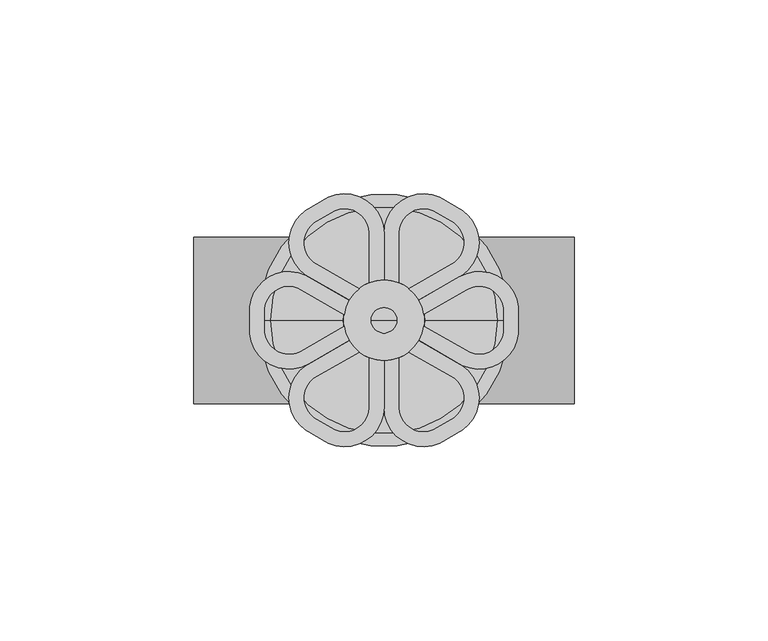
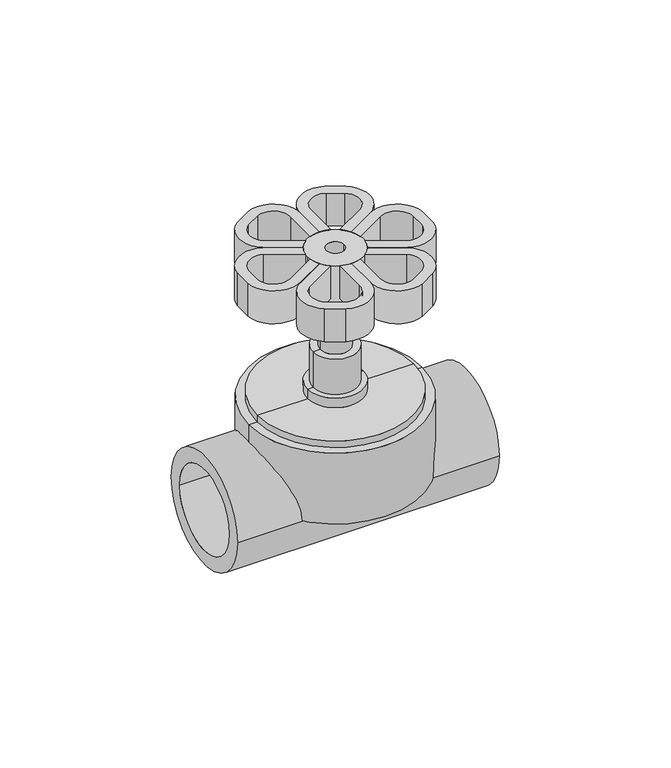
"""IFC4 building model written with IfcOpenShell, lengths in millimetres: valve geometry, Aquatherm - Screw Down Stop Globe Valve : NON-POTABLE."""

from ifc_helpers import new_model, si_unit, point, frame, origin, origin_with_axes, origin_2d, place, context, project, spatial, polyline, circle_curve, trimmed, segment, composite_curve, outline, extrude, source, transform, mapped, element, save
from ifc_brep_helpers import plane_surface, cylinder_surface, revolved_surface, advanced_brep


def valve_9fc11fa2(model_context):
    return source(origin(), model_context, "Body", "SolidModel", [
        advanced_brep(
        [(19.445201, 11.226692, 73.66), (34.6099022, 3.4437403, 73.66), (34.6331331, -3.4380483, 73.66), (20.3544492, -11.6772462, 73.66), (9.0506259, -5.1509807, 73.66), (10.3130833, -1.4804518, 73.66), (22.0748393, -8.2711048, 73.66), (30.8247999, -3.0585974, 73.66), (30.8433147, 3.0701977, 73.66), (21.350201, 7.9271352, 73.66), (10.2985375, 1.5464544, 73.66), (9.0187886, 5.207, 73.66), (19.445201, 11.226692, 86.614), (9.0187886, 5.207, 86.614), (10.2985375, 1.5464544, 86.614), (21.350201, 7.9271352, 86.614), (30.8185012, 3.0677369, 86.614), (30.8419054, -3.0603017, 86.614), (22.0748393, -8.2711048, 86.614), (10.3130833, -1.4804518, 86.614), (9.0506259, -5.1509807, 86.614), (20.3544492, -11.6772462, 86.614), (34.6160276, -3.436344, 86.614), (34.6347157, 3.4462011, 86.614)],
        [
            (0, 1, circle_curve(frame((24.5166058, 2.4427611, 73.66), z_axis=(0.0, 0.0, -1.0), x_axis=(0.5000000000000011, -0.8660254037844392, 0.0)), 10.1428098)),
            (1, 2, circle_curve(frame((0.0065867, 0.0120369, 73.66), z_axis=(0.0, 0.0, -1.0), x_axis=(0.5000000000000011, -0.8660254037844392, 0.0)), 34.798)),
            (2, 3, circle_curve(frame((24.5231925, -2.4307241, 73.66), z_axis=(0.0, 0.0, -1.0), x_axis=(0.5000000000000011, -0.8660254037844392, 0.0)), 10.1428098)),
            (3, 4),
            (4, 5, circle_curve(frame((0.0065867, 0.0120369, 73.66), z_axis=(0.0, 0.0, 1.0), x_axis=(0.4806142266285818, 0.876932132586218, 0.0)), 10.414)),
            (5, 6),
            (6, 7, circle_curve(frame((24.5231925, -2.4307241, 73.66), z_axis=(0.0, 0.0, 1.0), x_axis=(0.5000000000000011, -0.8660254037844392, 0.0)), 6.3328098)),
            (7, 8, circle_curve(frame((0.0065867, 0.0120369, 73.66), z_axis=(0.0, 0.0, 1.0), x_axis=(0.5000000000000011, -0.8660254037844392, 0.0)), 30.988)),
            (8, 9, circle_curve(frame((24.5166058, 2.4427611, 73.66), z_axis=(0.0, 0.0, 1.0), x_axis=(0.5000000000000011, -0.8660254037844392, 0.0)), 6.3328098)),
            (9, 10),
            (10, 11, circle_curve(frame((0.0, 0.0, 73.66), z_axis=(0.0, 0.0, 1.0), x_axis=(0.5000000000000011, -0.8660254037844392, 0.0)), 10.414)),
            (11, 0),
            (12, 13),
            (13, 14, circle_curve(frame((0.0, 0.0, 86.614), z_axis=(0.0, 0.0, -1.0), x_axis=(0.5000000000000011, -0.8660254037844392, 0.0)), 10.414)),
            (14, 15),
            (15, 16, circle_curve(frame((24.5166058, 2.4427611, 86.614), z_axis=(0.0, 0.0, -1.0), x_axis=(0.5000000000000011, -0.8660254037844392, 0.0)), 6.3328098)),
            (16, 17, circle_curve(frame((0.0065867, 0.0120369, 86.614), z_axis=(0.0, 0.0, -1.0), x_axis=(0.5000000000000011, -0.8660254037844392, 0.0)), 30.988)),
            (17, 18, circle_curve(frame((24.5231925, -2.4307241, 86.614), z_axis=(0.0, 0.0, -1.0), x_axis=(0.5000000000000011, -0.8660254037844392, 0.0)), 6.3328098)),
            (18, 19),
            (19, 20, circle_curve(frame((0.0065867, 0.0120369, 86.614), z_axis=(0.0, 0.0, -1.0), x_axis=(0.4806142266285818, 0.876932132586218, 0.0)), 10.414)),
            (20, 21),
            (21, 22, circle_curve(frame((24.5231925, -2.4307241, 86.614), z_axis=(0.0, 0.0, 1.0), x_axis=(0.5000000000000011, -0.8660254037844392, 0.0)), 10.1428098)),
            (22, 23, circle_curve(frame((0.0065867, 0.0120369, 86.614), z_axis=(0.0, 0.0, 1.0), x_axis=(0.5000000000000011, -0.8660254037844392, 0.0)), 34.798)),
            (23, 12, circle_curve(frame((24.5166058, 2.4427611, 86.614), z_axis=(0.0, 0.0, 1.0), x_axis=(0.5000000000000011, -0.8660254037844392, 0.0)), 10.1428098)),
            (11, 13),
            (12, 0),
            (10, 14),
            (9, 15),
            (8, 16),
            (7, 17),
            (6, 18),
            (5, 19),
            (4, 20),
            (3, 21),
            (2, 22),
            (1, 23),
        ],
        [
            plane_surface(frame((29.5880107, -6.3411699, 73.66), z_axis=(0.0, 0.0, -1.0000000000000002), x_axis=(-0.8660254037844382, -0.5000000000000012, 0.0))),
            plane_surface(frame((29.5880107, -6.3411699, 86.614), z_axis=(0.0, 0.0, 1.0000000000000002), x_axis=(0.8660254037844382, 0.5000000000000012, 0.0))),
            plane_surface(frame((9.0187886, 5.207, 73.66), z_axis=(-0.5000000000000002, 0.8660254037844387, 0.0), x_axis=(0.0, 0.0, 1.0))),
            revolved_surface(polyline([(5.207000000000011, -9.018788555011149, 86.614), (5.207000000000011, -9.018788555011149, 73.65999999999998)]), (0.0, 0.0, 86.614), (0.0, 0.0, 1.0000000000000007)),
            plane_surface(frame((21.350201, 7.9271352, 73.66), z_axis=(0.49999999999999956, -0.8660254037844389, 0.0), x_axis=(0.0, 0.0, 1.0))),
            revolved_surface(polyline([(27.683010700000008, -3.041613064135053, 86.614), (27.683010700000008, -3.041613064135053, 73.65999999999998)]), (24.5166058, 2.4427611, 86.614), (0.0, 0.0, 1.0000000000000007)),
            revolved_surface(polyline([(15.500586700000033, -26.824358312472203, 86.614), (15.500586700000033, -26.824358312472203, 73.65999999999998)]), (0.0065867, 0.0120369, 86.614), (0.0, 0.0, 1.0000000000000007)),
            revolved_surface(polyline([(27.689597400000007, -7.915098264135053, 86.614), (27.689597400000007, -7.915098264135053, 73.65999999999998)]), (24.5231925, -2.4307241, 86.614), (0.0, 0.0, 1.0000000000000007)),
            plane_surface(frame((10.3130833, -1.4804518, 73.66), z_axis=(0.4999999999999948, 0.8660254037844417, 0.0), x_axis=(0.0, 0.0, 1.0))),
            revolved_surface(polyline([(5.01170325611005, 9.144408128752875, 86.614), (5.01170325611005, 9.144408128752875, 73.65999999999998)]), (0.0065867, 0.0120369, 86.614), (0.0, 0.0, 1.0000000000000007)),
            plane_surface(frame((20.3544492, -11.6772462, 73.66), z_axis=(-0.49999999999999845, -0.8660254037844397, 0.0), x_axis=(0.0, 0.0, 1.0))),
            cylinder_surface(frame((24.5231925, -2.4307241, 86.614), z_axis=(0.0, 0.0, -1.0000000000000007), x_axis=(0.5000000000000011, -0.8660254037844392, 0.0)), 10.1428098),
            cylinder_surface(frame((0.0065867, 0.0120369, 86.614), z_axis=(0.0, 0.0, -1.0000000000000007), x_axis=(0.5000000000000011, -0.8660254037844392, 0.0)), 34.798),
            cylinder_surface(frame((24.5166058, 2.4427611, 86.614), z_axis=(0.0, 0.0, -1.0000000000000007), x_axis=(0.5000000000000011, -0.8660254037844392, 0.0)), 10.1428098),
        ],
        [
            (0, [[1, 2, 3, 4, 5, 6, 7, 8, 9, 10, 11, 12]]),
            (1, [[13, 14, 15, 16, 17, 18, 19, 20, 21, 22, 23, 24]]),
            (2, [[-12, 25, -13, 26]]),
            (3, [[-11, 27, -14, -25]]),
            (4, [[-10, 28, -15, -27]]),
            (5, [[-9, 29, -16, -28]]),
            (6, [[-8, 30, -17, -29]]),
            (7, [[-7, 31, -18, -30]]),
            (8, [[-6, 32, -19, -31]]),
            (9, [[-5, 33, -20, -32]]),
            (10, [[-4, 34, -21, -33]]),
            (11, [[-3, 35, -22, -34]]),
            (12, [[-2, 36, -23, -35]]),
            (13, [[-1, -26, -24, -36]]),
        ],
    ),
        advanced_brep(
        [(-19.445201, -11.226692, 73.66), (-34.6099022, -3.4437403, 73.66), (-34.6331331, 3.4380483, 73.66), (-20.3544492, 11.6772462, 73.66), (-9.0506259, 5.1509807, 73.66), (-10.3130833, 1.4804518, 73.66), (-22.0748393, 8.2711048, 73.66), (-30.8247999, 3.0585974, 73.66), (-30.8433147, -3.0701977, 73.66), (-21.350201, -7.9271352, 73.66), (-10.2985375, -1.5464544, 73.66), (-9.0187886, -5.207, 73.66), (-19.445201, -11.226692, 86.614), (-9.0187886, -5.207, 86.614), (-10.2985375, -1.5464544, 86.614), (-21.350201, -7.9271352, 86.614), (-30.8185012, -3.0677369, 86.614), (-30.8419054, 3.0603017, 86.614), (-22.0748393, 8.2711048, 86.614), (-10.3130833, 1.4804518, 86.614), (-9.0506259, 5.1509807, 86.614), (-20.3544492, 11.6772462, 86.614), (-34.6160276, 3.436344, 86.614), (-34.6347157, -3.4462011, 86.614)],
        [
            (0, 1, circle_curve(frame((-24.5166058, -2.4427611, 73.66), z_axis=(0.0, 0.0, -1.0), x_axis=(-0.5000000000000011, 0.8660254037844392, 0.0)), 10.1428098)),
            (1, 2, circle_curve(frame((-0.0065867, -0.0120369, 73.66), z_axis=(0.0, 0.0, -1.0), x_axis=(-0.5000000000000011, 0.8660254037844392, 0.0)), 34.798)),
            (2, 3, circle_curve(frame((-24.5231925, 2.4307241, 73.66), z_axis=(0.0, 0.0, -1.0), x_axis=(-0.5000000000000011, 0.8660254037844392, 0.0)), 10.1428098)),
            (3, 4),
            (4, 5, circle_curve(frame((-0.0065867, -0.0120369, 73.66), z_axis=(0.0, 0.0, 1.0), x_axis=(-0.4806142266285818, -0.876932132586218, 0.0)), 10.414)),
            (5, 6),
            (6, 7, circle_curve(frame((-24.5231925, 2.4307241, 73.66), z_axis=(0.0, 0.0, 1.0), x_axis=(-0.5000000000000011, 0.8660254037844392, 0.0)), 6.3328098)),
            (7, 8, circle_curve(frame((-0.0065867, -0.0120369, 73.66), z_axis=(0.0, 0.0, 1.0), x_axis=(-0.5000000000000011, 0.8660254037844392, 0.0)), 30.988)),
            (8, 9, circle_curve(frame((-24.5166058, -2.4427611, 73.66), z_axis=(0.0, 0.0, 1.0), x_axis=(-0.5000000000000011, 0.8660254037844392, 0.0)), 6.3328098)),
            (9, 10),
            (10, 11, circle_curve(frame((0.0, 0.0, 73.66), z_axis=(0.0, 0.0, 1.0), x_axis=(-0.5000000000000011, 0.8660254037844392, 0.0)), 10.414)),
            (11, 0),
            (12, 13),
            (13, 14, circle_curve(frame((0.0, 0.0, 86.614), z_axis=(0.0, 0.0, -1.0), x_axis=(-0.5000000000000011, 0.8660254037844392, 0.0)), 10.414)),
            (14, 15),
            (15, 16, circle_curve(frame((-24.5166058, -2.4427611, 86.614), z_axis=(0.0, 0.0, -1.0), x_axis=(-0.5000000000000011, 0.8660254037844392, 0.0)), 6.3328098)),
            (16, 17, circle_curve(frame((-0.0065867, -0.0120369, 86.614), z_axis=(0.0, 0.0, -1.0), x_axis=(-0.5000000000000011, 0.8660254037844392, 0.0)), 30.988)),
            (17, 18, circle_curve(frame((-24.5231925, 2.4307241, 86.614), z_axis=(0.0, 0.0, -1.0), x_axis=(-0.5000000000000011, 0.8660254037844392, 0.0)), 6.3328098)),
            (18, 19),
            (19, 20, circle_curve(frame((-0.0065867, -0.0120369, 86.614), z_axis=(0.0, 0.0, -1.0), x_axis=(-0.4806142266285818, -0.876932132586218, 0.0)), 10.414)),
            (20, 21),
            (21, 22, circle_curve(frame((-24.5231925, 2.4307241, 86.614), z_axis=(0.0, 0.0, 1.0), x_axis=(-0.5000000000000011, 0.8660254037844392, 0.0)), 10.1428098)),
            (22, 23, circle_curve(frame((-0.0065867, -0.0120369, 86.614), z_axis=(0.0, 0.0, 1.0), x_axis=(-0.5000000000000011, 0.8660254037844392, 0.0)), 34.798)),
            (23, 12, circle_curve(frame((-24.5166058, -2.4427611, 86.614), z_axis=(0.0, 0.0, 1.0), x_axis=(-0.5000000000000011, 0.8660254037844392, 0.0)), 10.1428098)),
            (0, 12),
            (23, 1),
            (22, 2),
            (21, 3),
            (20, 4),
            (19, 5),
            (18, 6),
            (17, 7),
            (16, 8),
            (15, 9),
            (14, 10),
            (13, 11),
        ],
        [
            plane_surface(frame((-29.5880107, 6.3411699, 73.66), z_axis=(0.0, 0.0, -1.0000000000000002), x_axis=(0.8660254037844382, 0.5000000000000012, 0.0))),
            plane_surface(frame((-29.5880107, 6.3411699, 86.614), z_axis=(0.0, 0.0, 1.0000000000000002), x_axis=(-0.8660254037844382, -0.5000000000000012, 0.0))),
            cylinder_surface(frame((-24.5166058, -2.4427611, 86.614), z_axis=(0.0, 0.0, -1.0000000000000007), x_axis=(-0.5000000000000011, 0.8660254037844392, 0.0)), 10.1428098),
            cylinder_surface(frame((-0.0065867, -0.0120369, 86.614), z_axis=(0.0, 0.0, -1.0000000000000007), x_axis=(-0.5000000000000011, 0.8660254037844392, 0.0)), 34.798),
            cylinder_surface(frame((-24.5231925, 2.4307241, 86.614), z_axis=(0.0, 0.0, -1.0000000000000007), x_axis=(-0.5000000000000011, 0.8660254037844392, 0.0)), 10.1428098),
            plane_surface(frame((-20.3544492, 11.6772462, 73.66), z_axis=(0.49999999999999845, 0.8660254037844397, 0.0), x_axis=(0.0, 0.0, 1.0))),
            revolved_surface(polyline([(-5.01170325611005, -9.144408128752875, 86.614), (-5.01170325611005, -9.144408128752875, 73.65999999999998)]), (-0.0065867, -0.0120369, 86.614), (0.0, 0.0, 1.0000000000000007)),
            plane_surface(frame((-10.3130833, 1.4804518, 73.66), z_axis=(-0.49999999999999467, -0.8660254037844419, 0.0), x_axis=(0.0, 0.0, 1.0))),
            revolved_surface(polyline([(-27.689597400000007, 7.915098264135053, 86.614), (-27.689597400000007, 7.915098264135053, 73.65999999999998)]), (-24.5231925, 2.4307241, 86.614), (0.0, 0.0, 1.0000000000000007)),
            revolved_surface(polyline([(-15.500586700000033, 26.824358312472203, 86.614), (-15.500586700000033, 26.824358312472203, 73.65999999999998)]), (-0.0065867, -0.0120369, 86.614), (0.0, 0.0, 1.0000000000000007)),
            revolved_surface(polyline([(-27.683010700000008, 3.041613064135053, 86.614), (-27.683010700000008, 3.041613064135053, 73.65999999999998)]), (-24.5166058, -2.4427611, 86.614), (0.0, 0.0, 1.0000000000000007)),
            plane_surface(frame((-21.350201, -7.9271352, 73.66), z_axis=(-0.49999999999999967, 0.866025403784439, 0.0), x_axis=(0.0, 0.0, 1.0))),
            revolved_surface(polyline([(-5.207000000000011, 9.018788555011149, 86.614), (-5.207000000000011, 9.018788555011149, 73.65999999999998)]), (0.0, 0.0, 86.614), (0.0, 0.0, 1.0000000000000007)),
            plane_surface(frame((-9.0187886, -5.207, 73.66), z_axis=(0.5000000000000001, -0.8660254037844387, 0.0), x_axis=(0.0, 0.0, 1.0))),
        ],
        [
            (0, [[1, 2, 3, 4, 5, 6, 7, 8, 9, 10, 11, 12]]),
            (1, [[13, 14, 15, 16, 17, 18, 19, 20, 21, 22, 23, 24]]),
            (2, [[-1, 25, -24, 26]]),
            (3, [[-2, -26, -23, 27]]),
            (4, [[-3, -27, -22, 28]]),
            (5, [[-4, -28, -21, 29]]),
            (6, [[-5, -29, -20, 30]]),
            (7, [[-6, -30, -19, 31]]),
            (8, [[-7, -31, -18, 32]]),
            (9, [[-8, -32, -17, 33]]),
            (10, [[-9, -33, -16, 34]]),
            (11, [[-10, -34, -15, 35]]),
            (12, [[-11, -35, -14, 36]]),
            (13, [[-12, -36, -13, -25]]),
        ],
    ),
        advanced_brep(
        [(0.0, 22.453384, 73.66), (0.0, 10.414, 73.66), (-3.81, 9.6920223, 73.66), (-3.81, 22.453384, 73.66), (-12.7525125, 28.2234734, 73.66), (-18.0712517, 25.1797227, 73.66), (-18.2004066, 14.9818193, 73.66), (-6.4386506, 8.1911663, 73.66), (-8.9861931, 5.2625816, 73.66), (-20.2900164, 11.788847, 73.66), (-20.2839749, 28.2601873, 73.66), (-14.3328602, 31.7176442, 73.66), (0.0, 22.453384, 86.614), (-14.3225845, 31.6949246, 86.614), (-20.2940037, 28.2741489, 86.614), (-20.2900164, 11.788847, 86.614), (-8.9861931, 5.2625816, 86.614), (-6.4386506, 8.1911663, 86.614), (-18.2004066, 14.9818193, 86.614), (-18.061223, 25.165761, 86.614), (-12.7627882, 28.246193, 86.614), (-3.81, 22.453384, 86.614), (-3.81, 9.6920223, 86.614), (0.0, 10.414, 86.614)],
        [
            (0, 1),
            (1, 2, circle_curve(frame((0.0, 0.0, 73.66), z_axis=(0.0, 0.0, 1.0), x_axis=(-1.0000000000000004, 0.0, 0.0)), 10.414)),
            (2, 3),
            (3, 4, circle_curve(frame((-10.1428098, 22.453384, 73.66), z_axis=(0.0, 0.0, 1.0), x_axis=(-1.0000000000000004, 0.0, 0.0)), 6.3328098)),
            (4, 5, circle_curve(frame((0.0071309, 0.0117227, 73.66), z_axis=(0.0, 0.0, 1.0), x_axis=(-1.0000000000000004, 0.0, 0.0)), 30.988)),
            (5, 6, circle_curve(frame((-14.3666651, 20.0223456, 73.66), z_axis=(0.0, 0.0, 1.0), x_axis=(-1.0000000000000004, 0.0, 0.0)), 6.3328098)),
            (6, 7),
            (7, 8, circle_curve(frame((0.0071309, 0.0117227, 73.66), z_axis=(0.0, 0.0, 1.0), x_axis=(0.5191383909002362, 0.8546901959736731, 0.0)), 10.414)),
            (8, 9),
            (9, 10, circle_curve(frame((-14.3666651, 20.0223456, 73.66), z_axis=(0.0, 0.0, -1.0), x_axis=(-1.0000000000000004, 0.0, 0.0)), 10.1428098)),
            (10, 11, circle_curve(frame((0.0071309, 0.0117227, 73.66), z_axis=(0.0, 0.0, -1.0), x_axis=(-1.0000000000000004, 0.0, 0.0)), 34.798)),
            (11, 0, circle_curve(frame((-10.1428098, 22.453384, 73.66), z_axis=(0.0, 0.0, -1.0), x_axis=(-1.0000000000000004, 0.0, 0.0)), 10.1428098)),
            (12, 13, circle_curve(frame((-10.1428098, 22.453384, 86.614), z_axis=(0.0, 0.0, 1.0), x_axis=(-1.0000000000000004, 0.0, 0.0)), 10.1428098)),
            (13, 14, circle_curve(frame((0.0071309, 0.0117227, 86.614), z_axis=(0.0, 0.0, 1.0), x_axis=(-1.0000000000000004, 0.0, 0.0)), 34.798)),
            (14, 15, circle_curve(frame((-14.3666651, 20.0223456, 86.614), z_axis=(0.0, 0.0, 1.0), x_axis=(-1.0000000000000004, 0.0, 0.0)), 10.1428098)),
            (15, 16),
            (16, 17, circle_curve(frame((0.0071309, 0.0117227, 86.614), z_axis=(0.0, 0.0, -1.0), x_axis=(0.5191383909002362, 0.8546901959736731, 0.0)), 10.414)),
            (17, 18),
            (18, 19, circle_curve(frame((-14.3666651, 20.0223456, 86.614), z_axis=(0.0, 0.0, -1.0), x_axis=(-1.0000000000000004, 0.0, 0.0)), 6.3328098)),
            (19, 20, circle_curve(frame((0.0071309, 0.0117227, 86.614), z_axis=(0.0, 0.0, -1.0), x_axis=(-1.0000000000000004, 0.0, 0.0)), 30.988)),
            (20, 21, circle_curve(frame((-10.1428098, 22.453384, 86.614), z_axis=(0.0, 0.0, -1.0), x_axis=(-1.0000000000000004, 0.0, 0.0)), 6.3328098)),
            (21, 22),
            (22, 23, circle_curve(frame((0.0, 0.0, 86.614), z_axis=(0.0, 0.0, -1.0), x_axis=(-1.0000000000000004, 0.0, 0.0)), 10.414)),
            (23, 12),
            (11, 13),
            (12, 0),
            (10, 14),
            (9, 15),
            (8, 16),
            (7, 17),
            (6, 18),
            (5, 19),
            (4, 20),
            (3, 21),
            (2, 22),
            (1, 23),
        ],
        [
            plane_surface(frame((0.0, 8.255, 73.66), z_axis=(0.0, 0.0, -1.0), x_axis=(0.0, -1.0, 0.0))),
            plane_surface(frame((0.0, 8.255, 86.614), z_axis=(0.0, 0.0, 1.0), x_axis=(0.0, 1.0, 0.0))),
            cylinder_surface(frame((-10.1428098, 22.453384, 86.614), z_axis=(0.0, 0.0, -1.0000000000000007), x_axis=(-1.0000000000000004, 0.0, 0.0)), 10.1428098),
            cylinder_surface(frame((0.0071309, 0.0117227, 86.614), z_axis=(0.0, 0.0, -1.0000000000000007), x_axis=(-1.0000000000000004, 0.0, 0.0)), 34.798),
            cylinder_surface(frame((-14.3666651, 20.0223456, 86.614), z_axis=(0.0, 0.0, -1.0000000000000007), x_axis=(-1.0000000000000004, 0.0, 0.0)), 10.1428098),
            plane_surface(frame((-8.9861931, 5.2625816, 73.66), z_axis=(-0.5000000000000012, -0.8660254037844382, 0.0), x_axis=(0.0, 0.0, 1.0))),
            revolved_surface(polyline([(5.413438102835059, 8.912466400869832, 86.614), (5.413438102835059, 8.912466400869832, 73.65999999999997)]), (0.0071309, 0.0117227, 86.614), (0.0, 0.0, 1.0000000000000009)),
            plane_surface(frame((-18.2004066, 14.9818193, 73.66), z_axis=(0.500000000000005, 0.8660254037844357, 0.0), x_axis=(0.0, 0.0, 1.0))),
            revolved_surface(polyline([(-20.699474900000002, 20.0223456, 86.614), (-20.699474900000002, 20.0223456, 73.65999999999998)]), (-14.3666651, 20.0223456, 86.614), (0.0, 0.0, 1.0000000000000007)),
            revolved_surface(polyline([(-30.980869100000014, 0.0117227, 86.614), (-30.980869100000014, 0.0117227, 73.65999999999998)]), (0.0071309, 0.0117227, 86.614), (0.0, 0.0, 1.0000000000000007)),
            revolved_surface(polyline([(-16.4756196, 22.453384, 86.614), (-16.4756196, 22.453384, 73.65999999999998)]), (-10.1428098, 22.453384, 86.614), (0.0, 0.0, 1.0000000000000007)),
            plane_surface(frame((-3.81, 9.6920223, 73.66), z_axis=(-1.0, 0.0, 0.0), x_axis=(0.0, 0.0, 1.0))),
            revolved_surface(polyline([(-10.414000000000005, 0.0, 86.614), (-10.414000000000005, 0.0, 73.65999999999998)]), (0.0, 0.0, 86.614), (0.0, 0.0, 1.0000000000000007)),
            plane_surface(frame((0.0, 22.453384, 73.66), z_axis=(1.0, 0.0, 0.0), x_axis=(0.0, 0.0, 1.0))),
        ],
        [
            (0, [[1, 2, 3, 4, 5, 6, 7, 8, 9, 10, 11, 12]]),
            (1, [[13, 14, 15, 16, 17, 18, 19, 20, 21, 22, 23, 24]]),
            (2, [[-12, 25, -13, 26]]),
            (3, [[-11, 27, -14, -25]]),
            (4, [[-10, 28, -15, -27]]),
            (5, [[-9, 29, -16, -28]]),
            (6, [[-8, 30, -17, -29]]),
            (7, [[-7, 31, -18, -30]]),
            (8, [[-6, 32, -19, -31]]),
            (9, [[-5, 33, -20, -32]]),
            (10, [[-4, 34, -21, -33]]),
            (11, [[-3, 35, -22, -34]]),
            (12, [[-2, 36, -23, -35]]),
            (13, [[-1, -26, -24, -36]]),
        ],
    ),
        advanced_brep(
        [(0.0, 22.453384, 73.66), (14.3225845, 31.6949246, 73.66), (20.2940037, 28.2741489, 73.66), (20.2900164, 11.788847, 73.66), (8.9861931, 5.2625816, 73.66), (6.4386506, 8.1911663, 73.66), (18.2004066, 14.9818193, 73.66), (18.061223, 25.165761, 73.66), (12.7627882, 28.246193, 73.66), (3.81, 22.453384, 73.66), (3.81, 9.6920223, 73.66), (0.0, 10.414, 73.66), (0.0, 22.453384, 86.614), (0.0, 10.414, 86.614), (3.81, 9.6920223, 86.614), (3.81, 22.453384, 86.614), (12.7525125, 28.2234734, 86.614), (18.0712517, 25.1797227, 86.614), (18.2004066, 14.9818193, 86.614), (6.4386506, 8.1911663, 86.614), (8.9861931, 5.2625816, 86.614), (20.2900164, 11.788847, 86.614), (20.2839749, 28.2601873, 86.614), (14.3328602, 31.7176442, 86.614)],
        [
            (0, 1, circle_curve(frame((10.1428098, 22.453384, 73.66), z_axis=(0.0, 0.0, -1.0), x_axis=(1.0000000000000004, 0.0, 0.0)), 10.1428098)),
            (1, 2, circle_curve(frame((-0.0071309, 0.0117227, 73.66), z_axis=(0.0, 0.0, -1.0), x_axis=(1.0000000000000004, 0.0, 0.0)), 34.798)),
            (2, 3, circle_curve(frame((14.3666651, 20.0223456, 73.66), z_axis=(0.0, 0.0, -1.0), x_axis=(1.0000000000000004, 0.0, 0.0)), 10.1428098)),
            (3, 4),
            (4, 5, circle_curve(frame((-0.0071309, 0.0117227, 73.66), z_axis=(0.0, 0.0, 1.0), x_axis=(-0.5191383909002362, 0.8546901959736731, 0.0)), 10.414)),
            (5, 6),
            (6, 7, circle_curve(frame((14.3666651, 20.0223456, 73.66), z_axis=(0.0, 0.0, 1.0), x_axis=(1.0000000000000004, 0.0, 0.0)), 6.3328098)),
            (7, 8, circle_curve(frame((-0.0071309, 0.0117227, 73.66), z_axis=(0.0, 0.0, 1.0), x_axis=(1.0000000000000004, 0.0, 0.0)), 30.988)),
            (8, 9, circle_curve(frame((10.1428098, 22.453384, 73.66), z_axis=(0.0, 0.0, 1.0), x_axis=(1.0000000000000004, 0.0, 0.0)), 6.3328098)),
            (9, 10),
            (10, 11, circle_curve(frame((0.0, 0.0, 73.66), z_axis=(0.0, 0.0, 1.0), x_axis=(1.0000000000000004, 0.0, 0.0)), 10.414)),
            (11, 0),
            (12, 13),
            (13, 14, circle_curve(frame((0.0, 0.0, 86.614), z_axis=(0.0, 0.0, -1.0), x_axis=(1.0000000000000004, 0.0, 0.0)), 10.414)),
            (14, 15),
            (15, 16, circle_curve(frame((10.1428098, 22.453384, 86.614), z_axis=(0.0, 0.0, -1.0), x_axis=(1.0000000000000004, 0.0, 0.0)), 6.3328098)),
            (16, 17, circle_curve(frame((-0.0071309, 0.0117227, 86.614), z_axis=(0.0, 0.0, -1.0), x_axis=(1.0000000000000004, 0.0, 0.0)), 30.988)),
            (17, 18, circle_curve(frame((14.3666651, 20.0223456, 86.614), z_axis=(0.0, 0.0, -1.0), x_axis=(1.0000000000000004, 0.0, 0.0)), 6.3328098)),
            (18, 19),
            (19, 20, circle_curve(frame((-0.0071309, 0.0117227, 86.614), z_axis=(0.0, 0.0, -1.0), x_axis=(-0.5191383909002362, 0.8546901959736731, 0.0)), 10.414)),
            (20, 21),
            (21, 22, circle_curve(frame((14.3666651, 20.0223456, 86.614), z_axis=(0.0, 0.0, 1.0), x_axis=(1.0000000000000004, 0.0, 0.0)), 10.1428098)),
            (22, 23, circle_curve(frame((-0.0071309, 0.0117227, 86.614), z_axis=(0.0, 0.0, 1.0), x_axis=(1.0000000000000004, 0.0, 0.0)), 34.798)),
            (23, 12, circle_curve(frame((10.1428098, 22.453384, 86.614), z_axis=(0.0, 0.0, 1.0), x_axis=(1.0000000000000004, 0.0, 0.0)), 10.1428098)),
            (11, 13),
            (12, 0),
            (10, 14),
            (9, 15),
            (8, 16),
            (7, 17),
            (6, 18),
            (5, 19),
            (4, 20),
            (3, 21),
            (2, 22),
            (1, 23),
        ],
        [
            plane_surface(frame((20.2856196, 22.453384, 73.66), z_axis=(0.0, 0.0, -1.0), x_axis=(0.0, -1.0, 0.0))),
            plane_surface(frame((20.2856196, 22.453384, 86.614), z_axis=(0.0, 0.0, 1.0), x_axis=(0.0, 1.0, 0.0))),
            plane_surface(frame((0.0, 10.414, 73.66), z_axis=(-1.0, 0.0, 0.0), x_axis=(0.0, 0.0, 1.0))),
            revolved_surface(polyline([(10.414000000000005, 0.0, 86.614), (10.414000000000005, 0.0, 73.65999999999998)]), (0.0, 0.0, 86.614), (0.0, 0.0, 1.0000000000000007)),
            plane_surface(frame((3.81, 22.453384, 73.66), z_axis=(1.0, 0.0, 0.0), x_axis=(0.0, 0.0, 1.0))),
            revolved_surface(polyline([(16.4756196, 22.453384, 86.614), (16.4756196, 22.453384, 73.65999999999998)]), (10.1428098, 22.453384, 86.614), (0.0, 0.0, 1.0000000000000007)),
            revolved_surface(polyline([(30.980869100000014, 0.0117227, 86.614), (30.980869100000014, 0.0117227, 73.65999999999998)]), (-0.0071309, 0.0117227, 86.614), (0.0, 0.0, 1.0000000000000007)),
            revolved_surface(polyline([(20.699474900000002, 20.0223456, 86.614), (20.699474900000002, 20.0223456, 73.65999999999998)]), (14.3666651, 20.0223456, 86.614), (0.0, 0.0, 1.0000000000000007)),
            plane_surface(frame((6.4386506, 8.1911663, 73.66), z_axis=(-0.500000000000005, 0.8660254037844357, 0.0), x_axis=(0.0, 0.0, 1.0))),
            revolved_surface(polyline([(-5.413438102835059, 8.912466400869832, 86.614), (-5.413438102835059, 8.912466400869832, 73.65999999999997)]), (-0.0071309, 0.0117227, 86.614), (0.0, 0.0, 1.0000000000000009)),
            plane_surface(frame((20.2900164, 11.788847, 73.66), z_axis=(0.5000000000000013, -0.866025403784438, 0.0), x_axis=(0.0, 0.0, 1.0))),
            cylinder_surface(frame((14.3666651, 20.0223456, 86.614), z_axis=(0.0, 0.0, -1.0000000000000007), x_axis=(1.0000000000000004, 0.0, 0.0)), 10.1428098),
            cylinder_surface(frame((-0.0071309, 0.0117227, 86.614), z_axis=(0.0, 0.0, -1.0000000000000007), x_axis=(1.0000000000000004, 0.0, 0.0)), 34.798),
            cylinder_surface(frame((10.1428098, 22.453384, 86.614), z_axis=(0.0, 0.0, -1.0000000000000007), x_axis=(1.0000000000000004, 0.0, 0.0)), 10.1428098),
        ],
        [
            (0, [[1, 2, 3, 4, 5, 6, 7, 8, 9, 10, 11, 12]]),
            (1, [[13, 14, 15, 16, 17, 18, 19, 20, 21, 22, 23, 24]]),
            (2, [[-12, 25, -13, 26]]),
            (3, [[-11, 27, -14, -25]]),
            (4, [[-10, 28, -15, -27]]),
            (5, [[-9, 29, -16, -28]]),
            (6, [[-8, 30, -17, -29]]),
            (7, [[-7, 31, -18, -30]]),
            (8, [[-6, 32, -19, -31]]),
            (9, [[-5, 33, -20, -32]]),
            (10, [[-4, 34, -21, -33]]),
            (11, [[-3, 35, -22, -34]]),
            (12, [[-2, 36, -23, -35]]),
            (13, [[-1, -26, -24, -36]]),
        ],
    ),
        advanced_brep(
        [(0.0, -22.453384, 73.66), (-14.3225845, -31.6949246, 73.66), (-20.2940037, -28.2741489, 73.66), (-20.2900164, -11.788847, 73.66), (-8.9861931, -5.2625816, 73.66), (-6.4386506, -8.1911663, 73.66), (-18.2004066, -14.9818193, 73.66), (-18.061223, -25.165761, 73.66), (-12.7627882, -28.246193, 73.66), (-3.81, -22.453384, 73.66), (-3.81, -9.6920223, 73.66), (0.0, -10.414, 73.66), (0.0, -22.453384, 86.614), (0.0, -10.414, 86.614), (-3.81, -9.6920223, 86.614), (-3.81, -22.453384, 86.614), (-12.7525125, -28.2234734, 86.614), (-18.0712517, -25.1797227, 86.614), (-18.2004066, -14.9818193, 86.614), (-6.4386506, -8.1911663, 86.614), (-8.9861931, -5.2625816, 86.614), (-20.2900164, -11.788847, 86.614), (-20.2839749, -28.2601873, 86.614), (-14.3328602, -31.7176442, 86.614)],
        [
            (0, 1, circle_curve(frame((-10.1428098, -22.453384, 73.66), z_axis=(0.0, 0.0, -1.0), x_axis=(-1.0000000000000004, 0.0, 0.0)), 10.1428098)),
            (1, 2, circle_curve(frame((0.0071309, -0.0117227, 73.66), z_axis=(0.0, 0.0, -1.0), x_axis=(-1.0000000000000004, 0.0, 0.0)), 34.798)),
            (2, 3, circle_curve(frame((-14.3666651, -20.0223456, 73.66), z_axis=(0.0, 0.0, -1.0), x_axis=(-1.0000000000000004, 0.0, 0.0)), 10.1428098)),
            (3, 4),
            (4, 5, circle_curve(frame((0.0071309, -0.0117227, 73.66), z_axis=(0.0, 0.0, 1.0), x_axis=(0.5191383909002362, -0.8546901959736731, 0.0)), 10.414)),
            (5, 6),
            (6, 7, circle_curve(frame((-14.3666651, -20.0223456, 73.66), z_axis=(0.0, 0.0, 1.0), x_axis=(-1.0000000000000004, 0.0, 0.0)), 6.3328098)),
            (7, 8, circle_curve(frame((0.0071309, -0.0117227, 73.66), z_axis=(0.0, 0.0, 1.0), x_axis=(-1.0000000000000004, 0.0, 0.0)), 30.988)),
            (8, 9, circle_curve(frame((-10.1428098, -22.453384, 73.66), z_axis=(0.0, 0.0, 1.0), x_axis=(-1.0000000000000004, 0.0, 0.0)), 6.3328098)),
            (9, 10),
            (10, 11, circle_curve(frame((0.0, 0.0, 73.66), z_axis=(0.0, 0.0, 1.0), x_axis=(-1.0000000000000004, 0.0, 0.0)), 10.414)),
            (11, 0),
            (12, 13),
            (13, 14, circle_curve(frame((0.0, 0.0, 86.614), z_axis=(0.0, 0.0, -1.0), x_axis=(-1.0000000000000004, 0.0, 0.0)), 10.414)),
            (14, 15),
            (15, 16, circle_curve(frame((-10.1428098, -22.453384, 86.614), z_axis=(0.0, 0.0, -1.0), x_axis=(-1.0000000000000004, 0.0, 0.0)), 6.3328098)),
            (16, 17, circle_curve(frame((0.0071309, -0.0117227, 86.614), z_axis=(0.0, 0.0, -1.0), x_axis=(-1.0000000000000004, 0.0, 0.0)), 30.988)),
            (17, 18, circle_curve(frame((-14.3666651, -20.0223456, 86.614), z_axis=(0.0, 0.0, -1.0), x_axis=(-1.0000000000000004, 0.0, 0.0)), 6.3328098)),
            (18, 19),
            (19, 20, circle_curve(frame((0.0071309, -0.0117227, 86.614), z_axis=(0.0, 0.0, -1.0), x_axis=(0.5191383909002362, -0.8546901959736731, 0.0)), 10.414)),
            (20, 21),
            (21, 22, circle_curve(frame((-14.3666651, -20.0223456, 86.614), z_axis=(0.0, 0.0, 1.0), x_axis=(-1.0000000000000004, 0.0, 0.0)), 10.1428098)),
            (22, 23, circle_curve(frame((0.0071309, -0.0117227, 86.614), z_axis=(0.0, 0.0, 1.0), x_axis=(-1.0000000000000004, 0.0, 0.0)), 34.798)),
            (23, 12, circle_curve(frame((-10.1428098, -22.453384, 86.614), z_axis=(0.0, 0.0, 1.0), x_axis=(-1.0000000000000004, 0.0, 0.0)), 10.1428098)),
            (0, 12),
            (23, 1),
            (22, 2),
            (21, 3),
            (20, 4),
            (19, 5),
            (18, 6),
            (17, 7),
            (16, 8),
            (15, 9),
            (14, 10),
            (13, 11),
        ],
        [
            plane_surface(frame((-20.2856196, -22.453384, 73.66), z_axis=(0.0, 0.0, -1.0), x_axis=(0.0, 1.0, 0.0))),
            plane_surface(frame((-20.2856196, -22.453384, 86.614), z_axis=(0.0, 0.0, 1.0), x_axis=(0.0, -1.0, 0.0))),
            cylinder_surface(frame((-10.1428098, -22.453384, 86.614), z_axis=(0.0, 0.0, -1.0000000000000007), x_axis=(-1.0000000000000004, 0.0, 0.0)), 10.1428098),
            cylinder_surface(frame((0.0071309, -0.0117227, 86.614), z_axis=(0.0, 0.0, -1.0000000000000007), x_axis=(-1.0000000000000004, 0.0, 0.0)), 34.798),
            cylinder_surface(frame((-14.3666651, -20.0223456, 86.614), z_axis=(0.0, 0.0, -1.0000000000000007), x_axis=(-1.0000000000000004, 0.0, 0.0)), 10.1428098),
            plane_surface(frame((-20.2900164, -11.788847, 73.66), z_axis=(-0.5000000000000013, 0.866025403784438, 0.0), x_axis=(0.0, 0.0, 1.0))),
            revolved_surface(polyline([(5.413438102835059, -8.912466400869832, 86.614), (5.413438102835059, -8.912466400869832, 73.65999999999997)]), (0.0071309, -0.0117227, 86.614), (0.0, 0.0, 1.0000000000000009)),
            plane_surface(frame((-6.4386506, -8.1911663, 73.66), z_axis=(0.500000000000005, -0.8660254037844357, 0.0), x_axis=(0.0, 0.0, 1.0))),
            revolved_surface(polyline([(-20.699474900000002, -20.0223456, 86.614), (-20.699474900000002, -20.0223456, 73.65999999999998)]), (-14.3666651, -20.0223456, 86.614), (0.0, 0.0, 1.0000000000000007)),
            revolved_surface(polyline([(-30.980869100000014, -0.0117227, 86.614), (-30.980869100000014, -0.0117227, 73.65999999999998)]), (0.0071309, -0.0117227, 86.614), (0.0, 0.0, 1.0000000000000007)),
            revolved_surface(polyline([(-16.4756196, -22.453384, 86.614), (-16.4756196, -22.453384, 73.65999999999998)]), (-10.1428098, -22.453384, 86.614), (0.0, 0.0, 1.0000000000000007)),
            plane_surface(frame((-3.81, -22.453384, 73.66), z_axis=(-1.0, 0.0, 0.0), x_axis=(0.0, 0.0, 1.0))),
            revolved_surface(polyline([(-10.414000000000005, 0.0, 86.614), (-10.414000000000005, 0.0, 73.65999999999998)]), (0.0, 0.0, 86.614), (0.0, 0.0, 1.0000000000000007)),
            plane_surface(frame((0.0, -10.414, 73.66), z_axis=(1.0, 0.0, 0.0), x_axis=(0.0, 0.0, 1.0))),
        ],
        [
            (0, [[1, 2, 3, 4, 5, 6, 7, 8, 9, 10, 11, 12]]),
            (1, [[13, 14, 15, 16, 17, 18, 19, 20, 21, 22, 23, 24]]),
            (2, [[-1, 25, -24, 26]]),
            (3, [[-2, -26, -23, 27]]),
            (4, [[-3, -27, -22, 28]]),
            (5, [[-4, -28, -21, 29]]),
            (6, [[-5, -29, -20, 30]]),
            (7, [[-6, -30, -19, 31]]),
            (8, [[-7, -31, -18, 32]]),
            (9, [[-8, -32, -17, 33]]),
            (10, [[-9, -33, -16, 34]]),
            (11, [[-10, -34, -15, 35]]),
            (12, [[-11, -35, -14, 36]]),
            (13, [[-12, -36, -13, -25]]),
        ],
    ),
        advanced_brep(
        [(0.0, -22.453384, 73.66), (0.0, -10.414, 73.66), (3.81, -9.6920223, 73.66), (3.81, -22.453384, 73.66), (12.7525125, -28.2234734, 73.66), (18.0712517, -25.1797227, 73.66), (18.2004066, -14.9818193, 73.66), (6.4386506, -8.1911663, 73.66), (8.9861931, -5.2625816, 73.66), (20.2900164, -11.788847, 73.66), (20.2839749, -28.2601873, 73.66), (14.3328602, -31.7176442, 73.66), (0.0, -22.453384, 86.614), (14.3225845, -31.6949246, 86.614), (20.2940037, -28.2741489, 86.614), (20.2900164, -11.788847, 86.614), (8.9861931, -5.2625816, 86.614), (6.4386506, -8.1911663, 86.614), (18.2004066, -14.9818193, 86.614), (18.061223, -25.165761, 86.614), (12.7627882, -28.246193, 86.614), (3.81, -22.453384, 86.614), (3.81, -9.6920223, 86.614), (0.0, -10.414, 86.614)],
        [
            (0, 1),
            (1, 2, circle_curve(frame((0.0, 0.0, 73.66), z_axis=(0.0, 0.0, 1.0), x_axis=(1.0000000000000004, 0.0, 0.0)), 10.414)),
            (2, 3),
            (3, 4, circle_curve(frame((10.1428098, -22.453384, 73.66), z_axis=(0.0, 0.0, 1.0), x_axis=(1.0000000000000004, 0.0, 0.0)), 6.3328098)),
            (4, 5, circle_curve(frame((-0.0071309, -0.0117227, 73.66), z_axis=(0.0, 0.0, 1.0), x_axis=(1.0000000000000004, 0.0, 0.0)), 30.988)),
            (5, 6, circle_curve(frame((14.3666651, -20.0223456, 73.66), z_axis=(0.0, 0.0, 1.0), x_axis=(1.0000000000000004, 0.0, 0.0)), 6.3328098)),
            (6, 7),
            (7, 8, circle_curve(frame((-0.0071309, -0.0117227, 73.66), z_axis=(0.0, 0.0, 1.0), x_axis=(-0.5191383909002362, -0.8546901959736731, 0.0)), 10.414)),
            (8, 9),
            (9, 10, circle_curve(frame((14.3666651, -20.0223456, 73.66), z_axis=(0.0, 0.0, -1.0), x_axis=(1.0000000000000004, 0.0, 0.0)), 10.1428098)),
            (10, 11, circle_curve(frame((-0.0071309, -0.0117227, 73.66), z_axis=(0.0, 0.0, -1.0), x_axis=(1.0000000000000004, 0.0, 0.0)), 34.798)),
            (11, 0, circle_curve(frame((10.1428098, -22.453384, 73.66), z_axis=(0.0, 0.0, -1.0), x_axis=(1.0000000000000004, 0.0, 0.0)), 10.1428098)),
            (12, 13, circle_curve(frame((10.1428098, -22.453384, 86.614), z_axis=(0.0, 0.0, 1.0), x_axis=(1.0000000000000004, 0.0, 0.0)), 10.1428098)),
            (13, 14, circle_curve(frame((-0.0071309, -0.0117227, 86.614), z_axis=(0.0, 0.0, 1.0), x_axis=(1.0000000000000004, 0.0, 0.0)), 34.798)),
            (14, 15, circle_curve(frame((14.3666651, -20.0223456, 86.614), z_axis=(0.0, 0.0, 1.0), x_axis=(1.0000000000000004, 0.0, 0.0)), 10.1428098)),
            (15, 16),
            (16, 17, circle_curve(frame((-0.0071309, -0.0117227, 86.614), z_axis=(0.0, 0.0, -1.0), x_axis=(-0.5191383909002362, -0.8546901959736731, 0.0)), 10.414)),
            (17, 18),
            (18, 19, circle_curve(frame((14.3666651, -20.0223456, 86.614), z_axis=(0.0, 0.0, -1.0), x_axis=(1.0000000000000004, 0.0, 0.0)), 6.3328098)),
            (19, 20, circle_curve(frame((-0.0071309, -0.0117227, 86.614), z_axis=(0.0, 0.0, -1.0), x_axis=(1.0000000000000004, 0.0, 0.0)), 30.988)),
            (20, 21, circle_curve(frame((10.1428098, -22.453384, 86.614), z_axis=(0.0, 0.0, -1.0), x_axis=(1.0000000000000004, 0.0, 0.0)), 6.3328098)),
            (21, 22),
            (22, 23, circle_curve(frame((0.0, 0.0, 86.614), z_axis=(0.0, 0.0, -1.0), x_axis=(1.0000000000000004, 0.0, 0.0)), 10.414)),
            (23, 12),
            (0, 12),
            (23, 1),
            (22, 2),
            (21, 3),
            (20, 4),
            (19, 5),
            (18, 6),
            (17, 7),
            (16, 8),
            (15, 9),
            (14, 10),
            (13, 11),
        ],
        [
            plane_surface(frame((0.0, -8.255, 73.66), z_axis=(0.0, 0.0, -1.0), x_axis=(0.0, 1.0, 0.0))),
            plane_surface(frame((0.0, -8.255, 86.614), z_axis=(0.0, 0.0, 1.0), x_axis=(0.0, -1.0, 0.0))),
            plane_surface(frame((0.0, -22.453384, 73.66), z_axis=(-1.0, 0.0, 0.0), x_axis=(0.0, 0.0, 1.0))),
            revolved_surface(polyline([(10.414000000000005, 0.0, 86.614), (10.414000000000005, 0.0, 73.65999999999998)]), (0.0, 0.0, 86.614), (0.0, 0.0, 1.0000000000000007)),
            plane_surface(frame((3.81, -9.6920223, 73.66), z_axis=(1.0, 0.0, 0.0), x_axis=(0.0, 0.0, 1.0))),
            revolved_surface(polyline([(16.4756196, -22.453384, 86.614), (16.4756196, -22.453384, 73.65999999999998)]), (10.1428098, -22.453384, 86.614), (0.0, 0.0, 1.0000000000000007)),
            revolved_surface(polyline([(30.980869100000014, -0.0117227, 86.614), (30.980869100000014, -0.0117227, 73.65999999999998)]), (-0.0071309, -0.0117227, 86.614), (0.0, 0.0, 1.0000000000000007)),
            revolved_surface(polyline([(20.699474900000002, -20.0223456, 86.614), (20.699474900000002, -20.0223456, 73.65999999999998)]), (14.3666651, -20.0223456, 86.614), (0.0, 0.0, 1.0000000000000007)),
            plane_surface(frame((18.2004066, -14.9818193, 73.66), z_axis=(-0.5000000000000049, -0.8660254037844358, 0.0), x_axis=(0.0, 0.0, 1.0))),
            revolved_surface(polyline([(-5.413438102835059, -8.912466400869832, 86.614), (-5.413438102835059, -8.912466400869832, 73.65999999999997)]), (-0.0071309, -0.0117227, 86.614), (0.0, 0.0, 1.0000000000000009)),
            plane_surface(frame((8.9861931, -5.2625816, 73.66), z_axis=(0.500000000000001, 0.8660254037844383, 0.0), x_axis=(0.0, 0.0, 1.0))),
            cylinder_surface(frame((14.3666651, -20.0223456, 86.614), z_axis=(0.0, 0.0, -1.0000000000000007), x_axis=(1.0000000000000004, 0.0, 0.0)), 10.1428098),
            cylinder_surface(frame((-0.0071309, -0.0117227, 86.614), z_axis=(0.0, 0.0, -1.0000000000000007), x_axis=(1.0000000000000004, 0.0, 0.0)), 34.798),
            cylinder_surface(frame((10.1428098, -22.453384, 86.614), z_axis=(0.0, 0.0, -1.0000000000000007), x_axis=(1.0000000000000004, 0.0, 0.0)), 10.1428098),
        ],
        [
            (0, [[1, 2, 3, 4, 5, 6, 7, 8, 9, 10, 11, 12]]),
            (1, [[13, 14, 15, 16, 17, 18, 19, 20, 21, 22, 23, 24]]),
            (2, [[-1, 25, -24, 26]]),
            (3, [[-2, -26, -23, 27]]),
            (4, [[-3, -27, -22, 28]]),
            (5, [[-4, -28, -21, 29]]),
            (6, [[-5, -29, -20, 30]]),
            (7, [[-6, -30, -19, 31]]),
            (8, [[-7, -31, -18, 32]]),
            (9, [[-8, -32, -17, 33]]),
            (10, [[-9, -33, -16, 34]]),
            (11, [[-10, -34, -15, 35]]),
            (12, [[-11, -35, -14, 36]]),
            (13, [[-12, -36, -13, -25]]),
        ],
    ),
        extrude(outline(composite_curve([segment(trimmed(circle_curve(origin_2d(), 10.414), [point((-10.414, 0.0))], [point((10.414, 0.0))], False, "CARTESIAN"), True, "CONTINUOUS"), segment(trimmed(circle_curve(origin_2d(), 10.414), [point((10.414, 0.0))], [point((-10.414, 0.0))], False, "CARTESIAN"), True, "CONTINUOUS")], self_intersect=False), holes=[composite_curve([segment(trimmed(circle_curve(origin_2d(), 3.302), [point((-3.302, 0.0))], [point((3.302, 0.0))], True, "CARTESIAN"), True, "CONTINUOUS"), segment(trimmed(circle_curve(origin_2d(), 3.302), [point((3.302, 0.0))], [point((-3.302, 0.0))], True, "CARTESIAN"), True, "CONTINUOUS")], self_intersect=False)]), frame((0.0, 0.0, 71.628), z_axis=(0.0, 0.0, 1.0), x_axis=(1.0, 0.0, 0.0)), (0.0, 0.0, 1.0), 14.986),
        advanced_brep(
        [(-29.21, 0.0, 30.48), (29.21, 0.0, 30.48), (29.21, 0.0, 27.94), (-29.21, 0.0, 27.94), (-10.445896, 0.0, 30.48), (10.445896, 0.0, 30.48), (-10.445896, 0.0, 34.29), (10.445896, 0.0, 34.29), (-8.413896, 0.0, 34.29), (8.413896, 0.0, 34.29), (-8.413896, 0.0, 48.26), (8.413896, 0.0, 48.26), (-5.619896, 0.0, 48.26), (5.619896, 0.0, 48.26), (-5.619896, 0.0, 71.628), (5.619896, 0.0, 71.628), (0.0, 0.0, 71.628), (0.0, 0.0, 27.94)],
        [
            (0, 1, circle_curve(frame((0.0, 0.0, 30.48), z_axis=(0.0, 0.0, -1.0), x_axis=(1.0, 0.0, 0.0)), 29.21)),
            (1, 2),
            (2, 3, circle_curve(frame((0.0, 0.0, 27.94), z_axis=(0.0, 0.0, 1.0), x_axis=(1.0, 0.0, 0.0)), 29.21)),
            (3, 0),
            (1, 0, circle_curve(frame((0.0, 0.0, 30.48), z_axis=(0.0, 0.0, -1.0), x_axis=(1.0, 0.0, 0.0)), 29.21)),
            (3, 2, circle_curve(frame((0.0, 0.0, 27.94), z_axis=(0.0, 0.0, 1.0), x_axis=(1.0, 0.0, 0.0)), 29.21)),
            (4, 5, circle_curve(frame((0.0, 0.0, 30.48), z_axis=(0.0, 0.0, -1.0), x_axis=(1.0, 0.0, 0.0)), 10.445896)),
            (5, 1),
            (0, 4),
            (5, 4, circle_curve(frame((0.0, 0.0, 30.48), z_axis=(0.0, 0.0, -1.0), x_axis=(1.0, 0.0, 0.0)), 10.445896)),
            (6, 7, circle_curve(frame((0.0, 0.0, 34.29), z_axis=(0.0, 0.0, -1.0), x_axis=(1.0, 0.0, 0.0)), 10.445896)),
            (7, 5),
            (4, 6),
            (7, 6, circle_curve(frame((0.0, 0.0, 34.29), z_axis=(0.0, 0.0, -1.0), x_axis=(1.0, 0.0, 0.0)), 10.445896)),
            (8, 9, circle_curve(frame((0.0, 0.0, 34.29), z_axis=(0.0, 0.0, -1.0), x_axis=(1.0, 0.0, 0.0)), 8.413896)),
            (9, 7),
            (6, 8),
            (9, 8, circle_curve(frame((0.0, 0.0, 34.29), z_axis=(0.0, 0.0, -1.0), x_axis=(1.0, 0.0, 0.0)), 8.413896)),
            (10, 11, circle_curve(frame((0.0, 0.0, 48.26), z_axis=(0.0, 0.0, -1.0), x_axis=(1.0, 0.0, 0.0)), 8.413896)),
            (11, 9),
            (8, 10),
            (11, 10, circle_curve(frame((0.0, 0.0, 48.26), z_axis=(0.0, 0.0, -1.0), x_axis=(1.0, 0.0, 0.0)), 8.413896)),
            (12, 13, circle_curve(frame((0.0, 0.0, 48.26), z_axis=(0.0, 0.0, -1.0), x_axis=(1.0, 0.0, 0.0)), 5.619896)),
            (13, 11),
            (10, 12),
            (13, 12, circle_curve(frame((0.0, 0.0, 48.26), z_axis=(0.0, 0.0, -1.0), x_axis=(1.0, 0.0, 0.0)), 5.619896)),
            (14, 15, circle_curve(frame((0.0, 0.0, 71.628), z_axis=(0.0, 0.0, -1.0), x_axis=(1.0, 0.0, 0.0)), 5.619896)),
            (15, 13),
            (12, 14),
            (15, 14, circle_curve(frame((0.0, 0.0, 71.628), z_axis=(0.0, 0.0, -1.0), x_axis=(1.0, 0.0, 0.0)), 5.619896)),
            (16, 15),
            (14, 16),
            (2, 17),
            (17, 3),
        ],
        [
            cylinder_surface(frame((0.0, 0.0, 80.137), z_axis=(0.0, 0.0, 1.0), x_axis=(1.0, 0.0, 0.0)), 29.21),
            plane_surface(frame((0.0, 0.0, 30.48), z_axis=(0.0, 0.0, 1.0), x_axis=(1.0, 0.0, 0.0))),
            cylinder_surface(frame((0.0, 0.0, 80.137), z_axis=(0.0, 0.0, 1.0), x_axis=(1.0, 0.0, 0.0)), 10.445896),
            plane_surface(frame((0.0, 0.0, 34.29), z_axis=(0.0, 0.0, 1.0), x_axis=(1.0, 0.0, 0.0))),
            cylinder_surface(frame((0.0, 0.0, 80.137), z_axis=(0.0, 0.0, 1.0), x_axis=(1.0, 0.0, 0.0)), 8.413896),
            plane_surface(frame((0.0, 0.0, 48.26), z_axis=(0.0, 0.0, 1.0), x_axis=(1.0, 0.0, 0.0))),
            cylinder_surface(frame((0.0, 0.0, 80.137), z_axis=(0.0, 0.0, 1.0), x_axis=(1.0, 0.0, 0.0)), 5.619896),
            plane_surface(frame((0.0, 0.0, 71.628), z_axis=(0.0, 0.0, 1.0), x_axis=(1.0, 0.0, 0.0))),
            plane_surface(frame((0.0, 0.0, 27.94), z_axis=(0.0, 0.0, -1.0), x_axis=(1.0, 0.0, 0.0))),
        ],
        [
            (0, [[1, 2, 3, 4]]),
            (0, [[5, -4, 6, -2]]),
            (1, [[7, 8, -1, 9]]),
            (1, [[10, -9, -5, -8]]),
            (2, [[11, 12, -7, 13]]),
            (2, [[14, -13, -10, -12]]),
            (3, [[15, 16, -11, 17]]),
            (3, [[18, -17, -14, -16]]),
            (4, [[19, 20, -15, 21]]),
            (4, [[22, -21, -18, -20]]),
            (5, [[23, 24, -19, 25]]),
            (5, [[26, -25, -22, -24]]),
            (6, [[27, 28, -23, 29]]),
            (6, [[30, -29, -26, -28]]),
            (7, [[31, -27, 32]]),
            (7, [[-32, -30, -31]]),
            (8, [[-3, 33, 34]]),
            (8, [[-6, -34, -33]]),
        ],
    ),
        advanced_brep(
        [(-32.512, 0.0, 27.94), (32.512, 0.0, 27.94), (32.512, 0.0, 0.0), (-32.512, 0.0, 0.0), (0.0, 0.0, 27.94), (0.0, 0.0, 0.0)],
        [
            (0, 1, circle_curve(frame((0.0, 0.0, 27.94), z_axis=(0.0, 0.0, -1.0), x_axis=(1.0, 0.0, 0.0)), 32.512)),
            (1, 2),
            (2, 3, circle_curve(origin_with_axes(), 32.512)),
            (3, 0),
            (1, 0, circle_curve(frame((0.0, 0.0, 27.94), z_axis=(0.0, 0.0, -1.0), x_axis=(1.0, 0.0, 0.0)), 32.512)),
            (3, 2, circle_curve(origin_with_axes(), 32.512)),
            (4, 1),
            (0, 4),
            (2, 5),
            (5, 3),
        ],
        [
            cylinder_surface(frame((0.0, 0.0, 27.94), z_axis=(0.0, 0.0, 1.0), x_axis=(1.0, 0.0, 0.0)), 32.512),
            plane_surface(frame((0.0, 0.0, 27.94), z_axis=(0.0, 0.0, 1.0), x_axis=(1.0, 0.0, 0.0))),
            plane_surface(frame((0.0, 0.0, 0.0), z_axis=(0.0, 0.0, -1.0), x_axis=(1.0, 0.0, 0.0))),
        ],
        [
            (0, [[1, 2, 3, 4]]),
            (0, [[5, -4, 6, -2]]),
            (1, [[7, -1, 8]]),
            (1, [[-8, -5, -7]]),
            (2, [[-3, 9, 10]]),
            (2, [[-6, -10, -9]]),
        ],
    ),
        extrude(outline(composite_curve([segment(trimmed(circle_curve(origin_2d(), 21.463), [point((-21.463, 0.0))], [point((21.463, 0.0))], False, "CARTESIAN"), True, "CONTINUOUS"), segment(trimmed(circle_curve(origin_2d(), 21.463), [point((21.463, 0.0))], [point((-21.463, 0.0))], False, "CARTESIAN"), True, "CONTINUOUS")], self_intersect=False), holes=[composite_curve([segment(trimmed(circle_curve(origin_2d(), 16.002), [point((-16.002, 0.0))], [point((16.002, 0.0))], True, "CARTESIAN"), True, "CONTINUOUS"), segment(trimmed(circle_curve(origin_2d(), 16.002), [point((16.002, 0.0))], [point((-16.002, 0.0))], True, "CARTESIAN"), True, "CONTINUOUS")], self_intersect=False)]), frame((-49.022, 0.0, 0.0), z_axis=(1.0, 0.0, 0.0), x_axis=(0.0, 1.0, 0.0)), (0.0, 0.0, 1.0), 98.044),
    ])


if __name__ == "__main__":
    model = new_model("IFC4")
    model_context = context("Model", 3, world=origin())
    ifc_project = project(units=[si_unit("LENGTHUNIT", "METRE", prefix="MILLI")], contexts=[model_context])
    site = spatial("IfcSite", under=ifc_project)
    building = spatial("IfcBuilding", under=site)
    placement = place(None, origin())
    valve_shape = valve_9fc11fa2(model_context)
    element("IfcValve", 1, ObjectType="Aquatherm - Screw Down Stop Globe Valve : NON-POTABLE", at=placement, inside=building, context=model_context, shape_type="MappedRepresentation", body=[
        mapped(valve_shape, transform((0.0, 0.0, 0.0), x_axis=(1.0, 0.0, 0.0), y_axis=(0.0, 1.0, 0.0), z_axis=(0.0, 0.0, 1.0))),
    ])
    save(model, "model.ifc")
